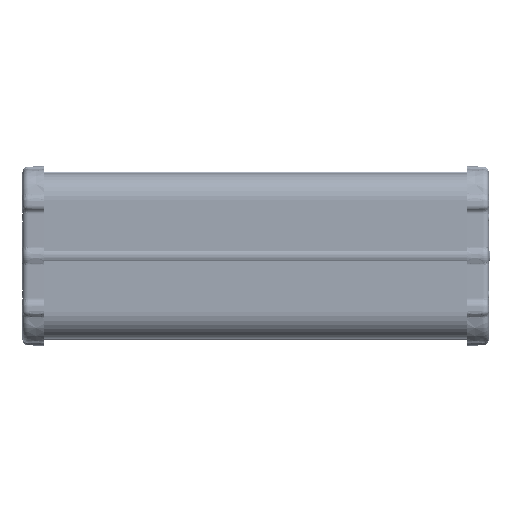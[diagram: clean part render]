
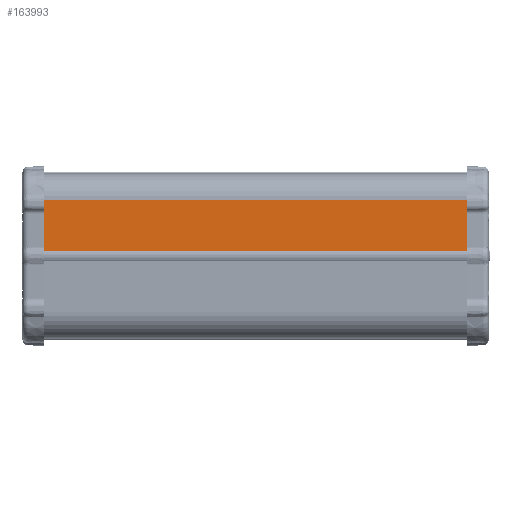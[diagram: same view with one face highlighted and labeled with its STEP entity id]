
A CAD part, left-side view. The second image highlights one B-rep face of the part: STEP entity #163993.
In plain terms, the highlighted planar face has unit normal (-1, 0, 0).
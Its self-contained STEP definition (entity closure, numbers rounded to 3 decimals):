
#142051=FACE_OUTER_BOUND('',#300980,.T.);
#163993=ADVANCED_FACE('',(#142051),#184586,.F.);
#184586=PLANE('',#562741);
#200653=LINE('',#738839,#247161);
#200792=LINE('',#739502,#247300);
#200847=LINE('',#739696,#247355);
#200848=LINE('',#739697,#247356);
#247161=VECTOR('',#604749,1.);
#247300=VECTOR('',#605296,1.);
#247355=VECTOR('',#605497,1.);
#247356=VECTOR('',#605498,1.);
#300980=EDGE_LOOP('',(#336189,#336190,#336191,#336192));
#336189=ORIENTED_EDGE('',*,*,#496711,.F.);
#336190=ORIENTED_EDGE('',*,*,#496822,.T.);
#336191=ORIENTED_EDGE('',*,*,#496369,.T.);
#336192=ORIENTED_EDGE('',*,*,#496823,.T.);
#453294=VERTEX_POINT('',#738838);
#453295=VERTEX_POINT('',#738840);
#453614=VERTEX_POINT('',#739501);
#453615=VERTEX_POINT('',#739503);
#496369=EDGE_CURVE('',#453295,#453294,#200653,.T.);
#496711=EDGE_CURVE('',#453614,#453615,#200792,.T.);
#496822=EDGE_CURVE('',#453614,#453295,#200847,.T.);
#496823=EDGE_CURVE('',#453294,#453615,#200848,.T.);
#562741=AXIS2_PLACEMENT_3D('',#739698,#605499,#605500);
#604749=DIRECTION('',(0.,0.,1.));
#605296=DIRECTION('',(0.,0.,1.));
#605497=DIRECTION('',(0.,-1.,0.));
#605498=DIRECTION('',(0.,1.,0.));
#605499=DIRECTION('',(1.,0.,0.));
#605500=DIRECTION('',(0.,-1.,0.));
#738838=CARTESIAN_POINT('',(-314.96,-218.058,140.1));
#738839=CARTESIAN_POINT('',(-314.96,-218.058,100.6));
#738840=CARTESIAN_POINT('',(-314.96,-218.058,101.6));
#739501=CARTESIAN_POINT('',(-314.96,111.942,101.6));
#739502=CARTESIAN_POINT('',(-314.96,111.942,100.6));
#739503=CARTESIAN_POINT('',(-314.96,111.942,140.1));
#739696=CARTESIAN_POINT('',(-314.96,-218.058,101.6));
#739697=CARTESIAN_POINT('',(-314.96,-218.058,140.1));
#739698=CARTESIAN_POINT('',(-314.96,-218.058,100.6));
